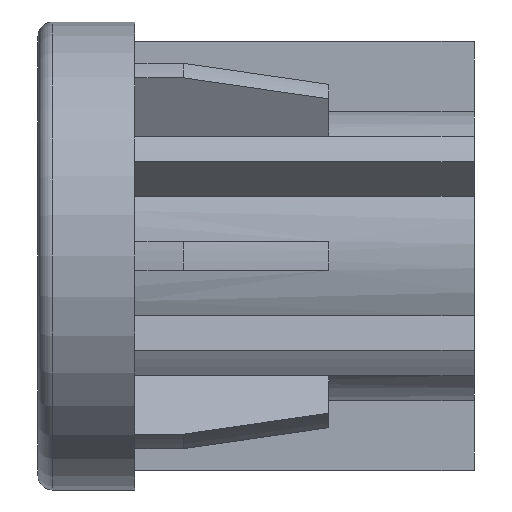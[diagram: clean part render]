
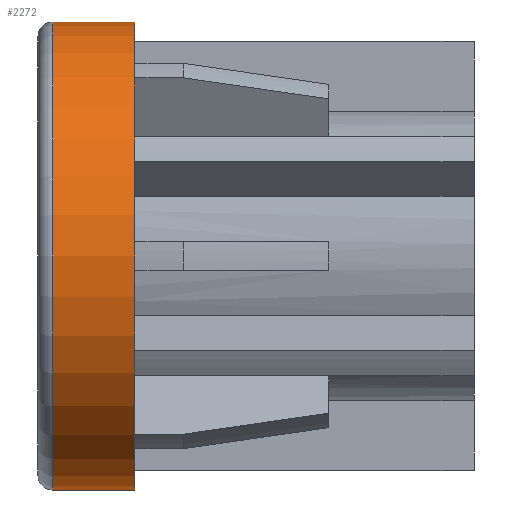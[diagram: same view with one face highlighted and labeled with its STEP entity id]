
A CAD part, left-side view. The second image highlights one B-rep face of the part: STEP entity #2272.
In plain terms, the highlighted cylindrical face has radius 24.15 mm (diameter 48.3 mm), a partial arc.
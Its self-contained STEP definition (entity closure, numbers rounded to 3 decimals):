
#71 = EDGE_CURVE ( 'NONE', #113, #1888, #978, .T. ) ;
#97 = DIRECTION ( 'NONE',  ( 0., 1., 0. ) ) ;
#113 = VERTEX_POINT ( 'NONE', #1712 ) ;
#138 = AXIS2_PLACEMENT_3D ( 'NONE', #933, #1357, #370 ) ;
#173 = VECTOR ( 'NONE', #2026, 1000. ) ;
#174 = VECTOR ( 'NONE', #1332, 1000. ) ;
#352 = LINE ( 'NONE', #2052, #173 ) ;
#370 = DIRECTION ( 'NONE',  ( 0., 0., 1. ) ) ;
#378 = CARTESIAN_POINT ( 'NONE',  ( 0., -1.5, 24.15 ) ) ;
#508 = ORIENTED_EDGE ( 'NONE', *, *, #1240, .T. ) ;
#535 = ORIENTED_EDGE ( 'NONE', *, *, #71, .F. ) ;
#636 = CARTESIAN_POINT ( 'NONE',  ( 0., 0., 0. ) ) ;
#644 = CIRCLE ( 'NONE', #2153, 24.15 ) ;
#748 = ORIENTED_EDGE ( 'NONE', *, *, #1027, .F. ) ;
#848 = DIRECTION ( 'NONE',  ( 0., 0., 1. ) ) ;
#933 = CARTESIAN_POINT ( 'NONE',  ( 0., -1.5, 0. ) ) ;
#978 = LINE ( 'NONE', #2081, #174 ) ;
#1027 = EDGE_CURVE ( 'NONE', #1888, #1676, #2400, .T. ) ;
#1042 = FACE_OUTER_BOUND ( 'NONE', #2178, .T. ) ;
#1067 = VERTEX_POINT ( 'NONE', #1259 ) ;
#1240 = EDGE_CURVE ( 'NONE', #1067, #1676, #352, .T. ) ;
#1259 = CARTESIAN_POINT ( 'NONE',  ( 0., -10., 24.15 ) ) ;
#1332 = DIRECTION ( 'NONE',  ( 0., 1., 0. ) ) ;
#1357 = DIRECTION ( 'NONE',  ( 0., 1., 0. ) ) ;
#1388 = DIRECTION ( 'NONE',  ( 0., 0., 1. ) ) ;
#1547 = EDGE_CURVE ( 'NONE', #113, #1067, #644, .T. ) ;
#1618 = DIRECTION ( 'NONE',  ( 0., 1., 0. ) ) ;
#1676 = VERTEX_POINT ( 'NONE', #378 ) ;
#1690 = AXIS2_PLACEMENT_3D ( 'NONE', #636, #97, #848 ) ;
#1712 = CARTESIAN_POINT ( 'NONE',  ( 0., -10., -24.15 ) ) ;
#1785 = CARTESIAN_POINT ( 'NONE',  ( 0., -10., 0. ) ) ;
#1799 = CYLINDRICAL_SURFACE ( 'NONE', #1690, 24.15 ) ;
#1888 = VERTEX_POINT ( 'NONE', #2142 ) ;
#2026 = DIRECTION ( 'NONE',  ( 0., 1., 0. ) ) ;
#2052 = CARTESIAN_POINT ( 'NONE',  ( 0., 0., 24.15 ) ) ;
#2081 = CARTESIAN_POINT ( 'NONE',  ( 0., 0., -24.15 ) ) ;
#2142 = CARTESIAN_POINT ( 'NONE',  ( 0., -1.5, -24.15 ) ) ;
#2153 = AXIS2_PLACEMENT_3D ( 'NONE', #1785, #1618, #1388 ) ;
#2178 = EDGE_LOOP ( 'NONE', ( #535, #2337, #508, #748 ) ) ;
#2272 = ADVANCED_FACE ( 'NONE', ( #1042 ), #1799, .T. ) ;
#2337 = ORIENTED_EDGE ( 'NONE', *, *, #1547, .T. ) ;
#2400 = CIRCLE ( 'NONE', #138, 24.15 ) ;
